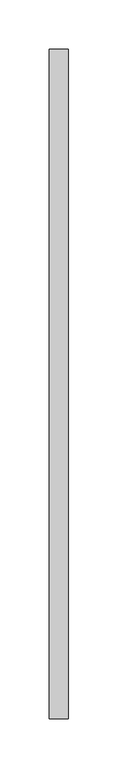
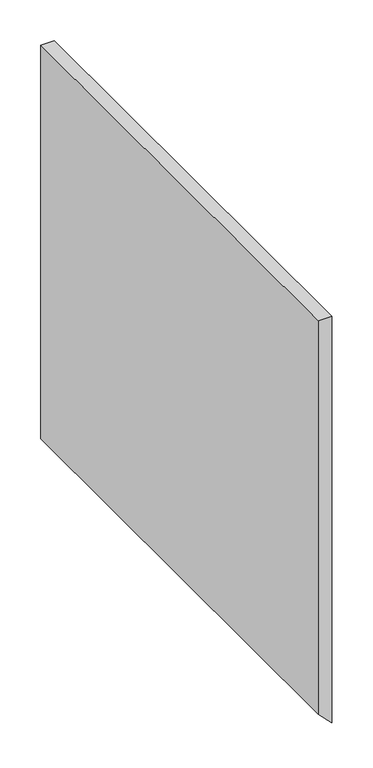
"""IFC4 building model written with IfcOpenShell, lengths in millimetres: proxy geometry, BASYS^CREDENZA 1_INTERNAL DETAILS-RIGHT END."""

from ifc_helpers import new_model, si_unit, frame, origin, place, context, project, spatial, polyline, outline, extrude, source, transform, mapped, element, save


def generic_models_2bbf2483(model_context):
    return source(origin(), model_context, "Body", "SweptSolid", [
        extrude(outline(polyline([(-28.575, 2419.35), (-615.95, 2419.35), (-635.0, 2438.4), (-28.575, 2438.4), (-28.575, 2419.35)])), frame((0.0, -687.55, 0.0), z_axis=(0.0, 1.0, 0.0), x_axis=(0.0, 0.0, 1.0)), (0.0, 0.0, 1.0), 678.025),
    ])


if __name__ == "__main__":
    model = new_model("IFC4")
    model_context = context("Model", 3, world=origin())
    ifc_project = project(units=[si_unit("LENGTHUNIT", "METRE", prefix="MILLI")], contexts=[model_context])
    site = spatial("IfcSite", under=ifc_project)
    building = spatial("IfcBuilding", under=site)
    placement = place(None, origin())
    generic_models_shape = generic_models_2bbf2483(model_context)
    element("IfcBuildingElementProxy", 1, Name="BASYS^CREDENZA 1_INTERNAL DETAILS-RIGHT END", ObjectType="BASYS^CREDENZA 1_INTERNAL DETAILS-RIGHT END", at=placement, inside=building, context=model_context, shape_type="MappedRepresentation", body=[
        mapped(generic_models_shape, transform((0.0, 0.0, 0.0), x_axis=(1.0, 0.0, 0.0), y_axis=(0.0, 1.0, 0.0), z_axis=(0.0, 0.0, 1.0))),
    ])
    save(model, "model.ifc")
